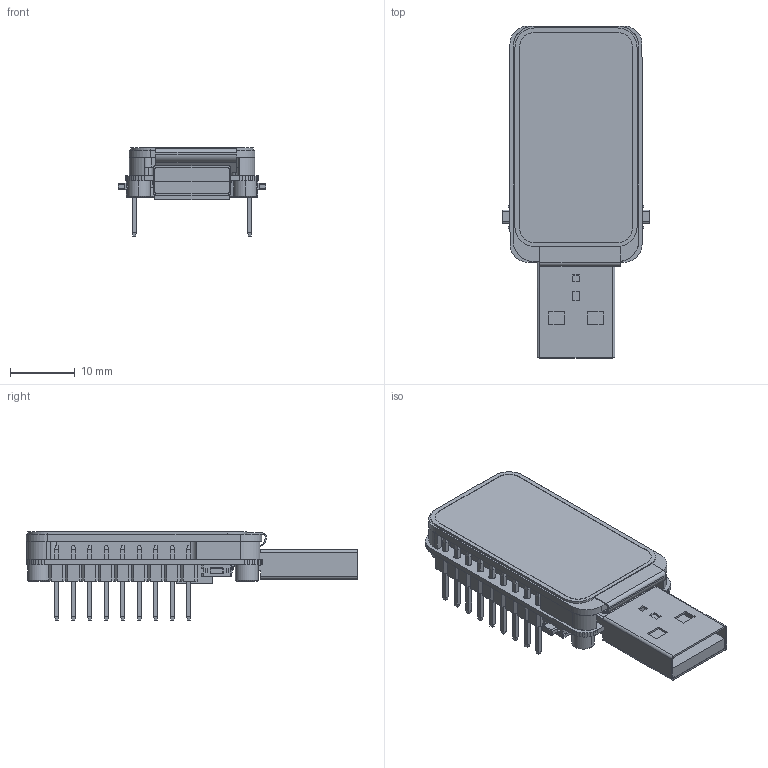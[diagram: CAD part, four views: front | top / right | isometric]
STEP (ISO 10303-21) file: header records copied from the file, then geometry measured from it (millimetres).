
FILE_DESCRIPTION((''),'2;1');
FILE_NAME('ESP32-S3-LCD-1_47_ASM','2024-08-30T15:06:06',('xiaojisheng'),(''),'CREO PARAMETRIC BY PTC INC, 2021063','CREO PARAMETRIC BY PTC INC, 2021063','');
FILE_SCHEMA(('CONFIG_CONTROL_DESIGN','SHAPE_APPEARANCE_LAYERS_GROUPS'));
Products named in the file (99): 1_47INCH-172X320-LCD; BOARD; EXTRUDED-6764; 1088153392_ASM; LED1_ASM; _1_10001; 3_1_A; 2_100; C_0402-672_AF0_ASM_ASM; C_0402-4045_AF0_ASM_ASM; C_0402_ASM; C1_ASM; 2_A; 300; _10001; C_0201-1099_AF1_ASM_ASM; C_0201-4408_AF1_ASM_ASM; 3D_MODEL_ASM; C2_ASM; C3_ASM; C4_ASM; C5_ASM; C6_ASM; C7_ASM; C8_ASM; C9_ASM; C10_ASM; C11_ASM; C12_ASM; C13_ASM; C14_ASM; C15_ASM; USER_LIBRARY-RES_0603-0201_1; USER_LIBRARY-RES_0603-0201_2; USER_LIBRARY-RES_0603-0201_3; USER_LIBRARY-RES_0603-0201_4; USER_LIBRARY-RES_0603-0201_ASM; IND1_ASM; L1_ASM; SOT-23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
Assembly tree (143 placements, depth 8):
  ESP32-S3-LCD-1_47_ASM
    1_47INCH-172X320-LCD
    ESP32-S3-LCD-1_47-PCBA_ASM
      PCB_ASM
        BOARD
        LED1_ASM
          1088153392_ASM
            EXTRUDED-6764
        C1_ASM
          C_0402_ASM
            C_0402-4045_AF0_ASM_ASM
              C_0402-672_AF0_ASM_ASM
                _1_10001
                3_1_A
                2_100
        C2_ASM
          3D_MODEL_ASM
            C_0201-4408_AF1_ASM_ASM
              C_0201-1099_AF1_ASM_ASM
                2_A
                300
                _10001
        C3_ASM
          C_0402_ASM
            C_0402-4045_AF0_ASM_ASM
              C_0402-672_AF0_ASM_ASM
                _1_10001
                3_1_A
                2_100
        C4_ASM
          3D_MODEL_ASM
            C_0201-4408_AF1_ASM_ASM
              C_0201-1099_AF1_ASM_ASM
                2_A
                300
                _10001
        C5_ASM
          3D_MODEL_ASM
            C_0201-4408_AF1_ASM_ASM
              C_0201-1099_AF1_ASM_ASM
                2_A
                300
                _10001
        C6_ASM
          3D_MODEL_ASM
            C_0201-4408_AF1_ASM_ASM
              C_0201-1099_AF1_ASM_ASM
                2_A
                300
                _10001
        C7_ASM
          C_0402_ASM
            C_0402-4045_AF0_ASM_ASM
              C_0402-672_AF0_ASM_ASM
                _1_10001
                3_1_A
                2_100
        C8_ASM
          3D_MODEL_ASM
            C_0201-4408_AF1_ASM_ASM
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Bounding box: 22.72 x 51.1 x 13.55 mm (x, y, z)
Volume: 3454.6 mm3; surface area: 7778.2 mm2
Topology: 158 solids, 158 shells, 11311 faces, 29497 edges, 19363 vertices
Faces by surface type: plane 8646, extrusion 1467, cylinder 1004, sphere 136, bspline 32, cone 24, torus 2
Entity records: 122895 total; most frequent: CARTESIAN_POINT 27721, ORIENTED_EDGE 14390, DIRECTION 13253, PRESENTATION_STYLE_ASSIGNMENT 7734, STYLED_ITEM 7259, CURVE_STYLE 7219, EDGE_CURVE 7195, VECTOR 5823
